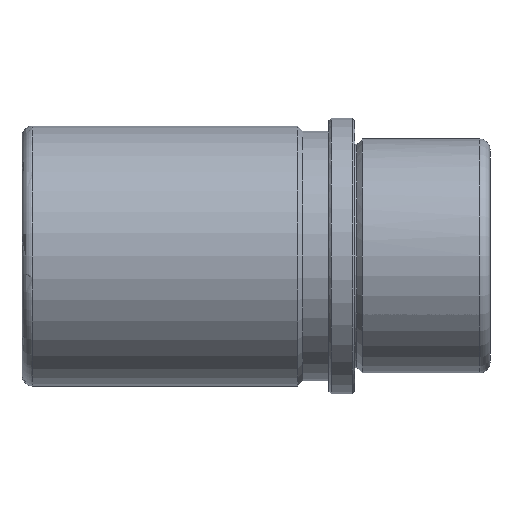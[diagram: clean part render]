
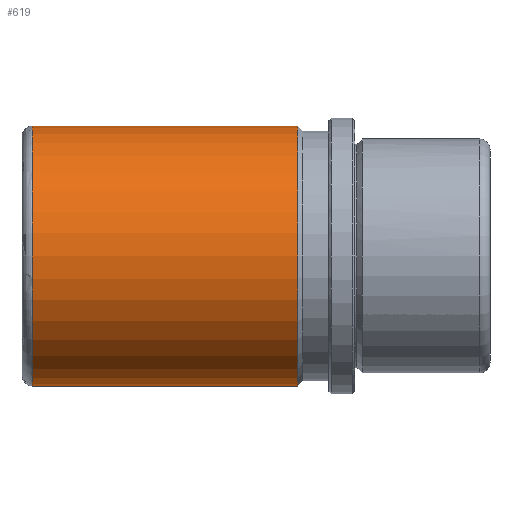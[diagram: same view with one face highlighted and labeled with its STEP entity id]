
A CAD part, front view. The second image highlights one B-rep face of the part: STEP entity #619.
In plain terms, the highlighted cylindrical face has radius 25 mm (diameter 50 mm), a partial arc.
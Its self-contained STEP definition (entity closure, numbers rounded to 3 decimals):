
#404=CARTESIAN_POINT('Line Origine',(26.,0.,25.)) ;
#408=CARTESIAN_POINT('Vertex',(-11.,0.,25.)) ;
#410=CARTESIAN_POINT('Vertex',(-62.,0.,25.)) ;
#424=CARTESIAN_POINT('Vertex',(-11.,0.,-25.)) ;
#427=CARTESIAN_POINT('Line Origine',(26.,0.,-25.)) ;
#431=CARTESIAN_POINT('Vertex',(-62.,0.,-25.)) ;
#582=CARTESIAN_POINT('Axis2P3D Location',(26.,0.,0.)) ;
#587=CARTESIAN_POINT('Axis2P3D Location',(-11.,0.,0.)) ;
#591=CARTESIAN_POINT('Vertex',(-11.,-25.,0.)) ;
#594=CARTESIAN_POINT('Axis2P3D Location',(-11.,0.,0.)) ;
#599=CARTESIAN_POINT('Axis2P3D Location',(-62.,0.,0.)) ;
#603=CARTESIAN_POINT('Vertex',(-62.,-25.,0.)) ;
#606=CARTESIAN_POINT('Axis2P3D Location',(-62.,0.,0.)) ;
#405=DIRECTION('Vector Direction',(-1.,0.,0.)) ;
#428=DIRECTION('Vector Direction',(-1.,0.,0.)) ;
#583=DIRECTION('Axis2P3D Direction',(-1.,-0.,-0.)) ;
#584=DIRECTION('Axis2P3D XDirection',(0.,0.,-1.)) ;
#588=DIRECTION('Axis2P3D Direction',(-1.,-0.,-0.)) ;
#595=DIRECTION('Axis2P3D Direction',(-1.,-0.,-0.)) ;
#600=DIRECTION('Axis2P3D Direction',(-1.,-0.,-0.)) ;
#607=DIRECTION('Axis2P3D Direction',(-1.,-0.,-0.)) ;
#585=AXIS2_PLACEMENT_3D('Cylinder Axis2P3D',#582,#583,#584) ;
#589=AXIS2_PLACEMENT_3D('Circle Axis2P3D',#587,#588,$) ;
#596=AXIS2_PLACEMENT_3D('Circle Axis2P3D',#594,#595,$) ;
#601=AXIS2_PLACEMENT_3D('Circle Axis2P3D',#599,#600,$) ;
#608=AXIS2_PLACEMENT_3D('Circle Axis2P3D',#606,#607,$) ;
#612=ORIENTED_EDGE('',*,*,#433,.T.) ;
#613=ORIENTED_EDGE('',*,*,#593,.F.) ;
#614=ORIENTED_EDGE('',*,*,#598,.F.) ;
#615=ORIENTED_EDGE('',*,*,#412,.T.) ;
#616=ORIENTED_EDGE('',*,*,#605,.T.) ;
#617=ORIENTED_EDGE('',*,*,#610,.T.) ;
#406=VECTOR('Line Direction',#405,1.) ;
#429=VECTOR('Line Direction',#428,1.) ;
#619=ADVANCED_FACE('CF 655 32 x 90',(#618),#586,.T.) ;
#590=CIRCLE('generated circle',#589,25.) ;
#597=CIRCLE('generated circle',#596,25.) ;
#602=CIRCLE('generated circle',#601,25.) ;
#609=CIRCLE('generated circle',#608,25.) ;
#586=CYLINDRICAL_SURFACE('generated cylinder',#585,25.) ;
#412=EDGE_CURVE('',#409,#411,#407,.T.) ;
#433=EDGE_CURVE('',#432,#425,#430,.F.) ;
#593=EDGE_CURVE('',#592,#425,#590,.F.) ;
#598=EDGE_CURVE('',#409,#592,#597,.F.) ;
#605=EDGE_CURVE('',#411,#604,#602,.F.) ;
#610=EDGE_CURVE('',#604,#432,#609,.F.) ;
#611=EDGE_LOOP('',(#612,#613,#614,#615,#616,#617)) ;
#618=FACE_OUTER_BOUND('',#611,.T.) ;
#407=LINE('Line',#404,#406) ;
#430=LINE('Line',#427,#429) ;
#409=VERTEX_POINT('',#408) ;
#411=VERTEX_POINT('',#410) ;
#425=VERTEX_POINT('',#424) ;
#432=VERTEX_POINT('',#431) ;
#592=VERTEX_POINT('',#591) ;
#604=VERTEX_POINT('',#603) ;
